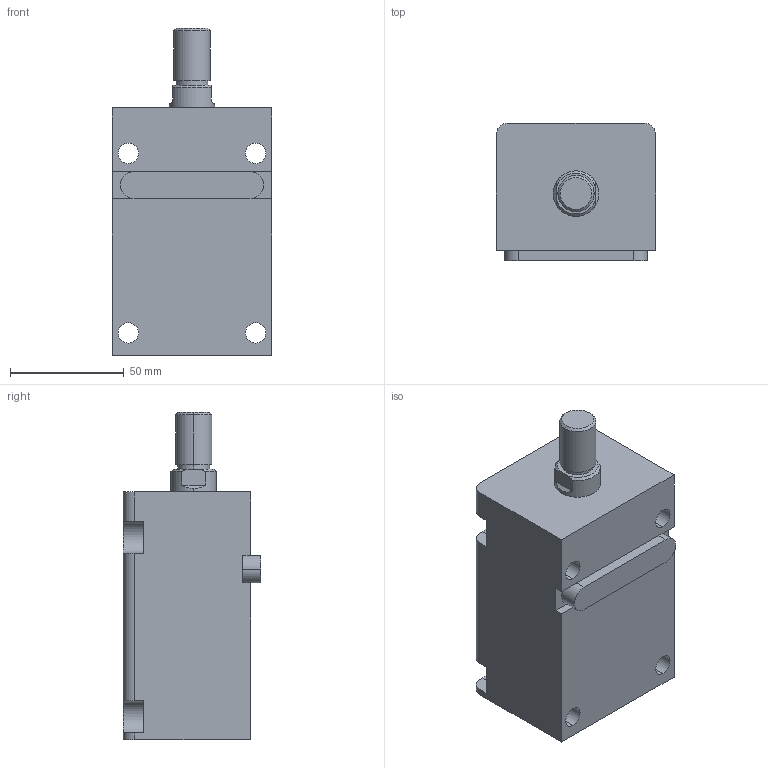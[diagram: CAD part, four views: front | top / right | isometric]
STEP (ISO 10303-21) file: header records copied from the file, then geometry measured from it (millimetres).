
FILE_DESCRIPTION (( 'STEP AP203' ), '1' );
FILE_NAME ('HTB-LA32-55W.STEP', '2019-10-09T06:29:00', ( '微软用户' ), ( '微软中国' ), 'SwSTEP 2.0', 'SolidWorks 2012', '' );
FILE_SCHEMA (( 'CONFIG_CONTROL_DESIGN' ));
Length unit declared in the file: millimetre
Products named in the file (4): HTB-LA32-55掛极; HTB-LA32-55W活塞杆; HTB-LA32-瑩; HTB-LA32-55W
Assembly tree (3 placements, depth 2):
  HTB-LA32-55W
    HTB-LA32-55掛极
    HTB-LA32-55W活塞杆
    HTB-LA32-瑩
Bounding box: 70 x 60.5 x 144 mm (x, y, z)
Volume: 389916.8 mm3; surface area: 64422.8 mm2
Topology: 3 solids, 3 shells, 92 faces, 223 edges, 146 vertices
Faces by surface type: plane 41, cylinder 37, cone 8, torus 6
Entity records: 3159 total; most frequent: DIRECTION 509, CARTESIAN_POINT 495, ORIENTED_EDGE 446, EDGE_CURVE 223, AXIS2_PLACEMENT_3D 196, VERTEX_POINT 146, VECTOR 117, LINE 117
